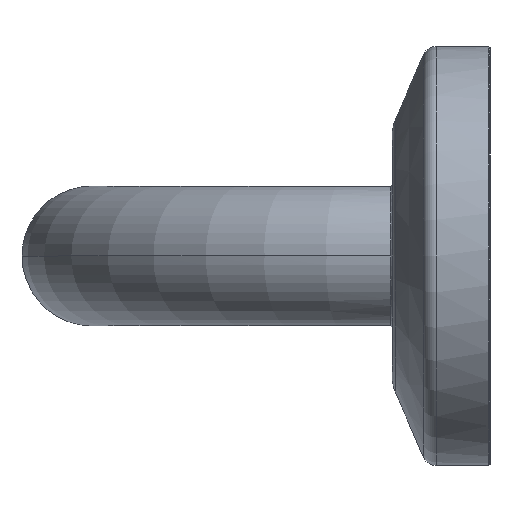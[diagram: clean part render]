
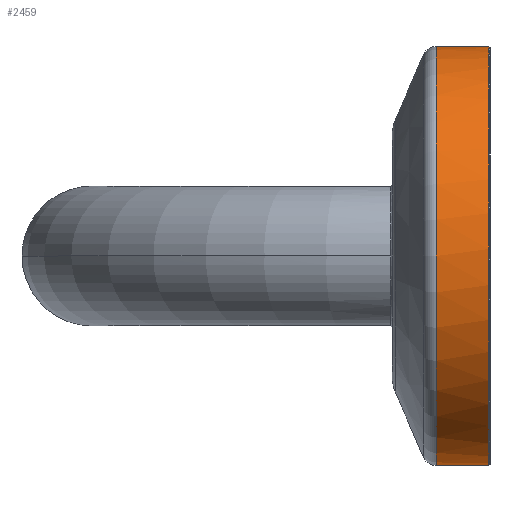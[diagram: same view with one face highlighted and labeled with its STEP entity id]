
A CAD part, left-side view. The second image highlights one B-rep face of the part: STEP entity #2459.
In plain terms, the highlighted cylindrical face has radius 30 mm (diameter 60 mm), a partial arc.
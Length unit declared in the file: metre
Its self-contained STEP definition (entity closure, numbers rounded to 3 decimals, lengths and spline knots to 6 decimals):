
#74=VERTEX_POINT('',#75);
#75=CARTESIAN_POINT('',(-0.44,-0.0138,-0.03));
#82=VERTEX_POINT('',#83);
#83=CARTESIAN_POINT('',(-0.44,-0.0138,0.03));
#160=VERTEX_POINT('',#161);
#161=CARTESIAN_POINT('',(-0.44,-0.006311,-0.03));
#168=EDGE_CURVE('',#160,#169,#171,.T.);
#169=VERTEX_POINT('',#170);
#170=CARTESIAN_POINT('',(-0.44,-0.006311,0.03));
#171=CIRCLE('',#172,0.03);
#172=AXIS2_PLACEMENT_3D('',#173,#174,#175);
#173=CARTESIAN_POINT('',(-0.44,-0.006311,0.0));
#174=DIRECTION('',(0.0,1.0,0.0));
#175=DIRECTION('',(0.0,0.0,-1.0));
#206=CYLINDRICAL_SURFACE('',#207,0.03);
#207=AXIS2_PLACEMENT_3D('',#208,#209,#210);
#208=CARTESIAN_POINT('',(-0.44,0.0,0.0));
#209=DIRECTION('',(0.0,1.0,0.0));
#210=DIRECTION('',(0.0,0.0,1.0));
#215=EDGE_CURVE('',#74,#160,#216,.T.);
#216=LINE('',#217,#218);
#217=CARTESIAN_POINT('',(-0.44,0.0,-0.03));
#218=VECTOR('',#219,1.0);
#219=DIRECTION('',(0.0,1.0,0.0));
#228=EDGE_CURVE('',#82,#169,#229,.T.);
#229=LINE('',#230,#231);
#230=CARTESIAN_POINT('',(-0.44,-0.005,0.03));
#231=VECTOR('',#232,1.0);
#232=DIRECTION('',(0.0,1.0,0.0));
#2457=FACE_OUTER_BOUND('',#2460,.T.);
#2459=ADVANCED_FACE('',(#2457),#206,.T.);
#2460=EDGE_LOOP('',(#2461,#2462,#2470,#2471));
#2461=ORIENTED_EDGE('',*,*,#215,.F.);
#2462=ORIENTED_EDGE('',*,*,#2464,.T.);
#2463=CARTESIAN_POINT('',(-0.44,-0.0138,-0.03));
#2464=EDGE_CURVE('',#74,#82,#2465,.T.);
#2465=(B_SPLINE_CURVE(3,(#2463,#2466,#2467,#2468),.UNSPECIFIED.,.F.,.U.)B_SPLINE_CURVE_WITH_KNOTS(
  (4,4),(0.0,1.0),.UNSPECIFIED.)BOUNDED_CURVE()CURVE()GEOMETRIC_REPRESENTATION_ITEM(
  )RATIONAL_B_SPLINE_CURVE((1.0,0.333,0.333,1.0)
  )REPRESENTATION_ITEM(''));
#2466=CARTESIAN_POINT('',(-0.5,-0.0138,-0.03));
#2467=CARTESIAN_POINT('',(-0.5,-0.0138,0.03));
#2468=CARTESIAN_POINT('',(-0.44,-0.0138,0.03));
#2470=ORIENTED_EDGE('',*,*,#228,.T.);
#2471=ORIENTED_EDGE('',*,*,#168,.F.);
